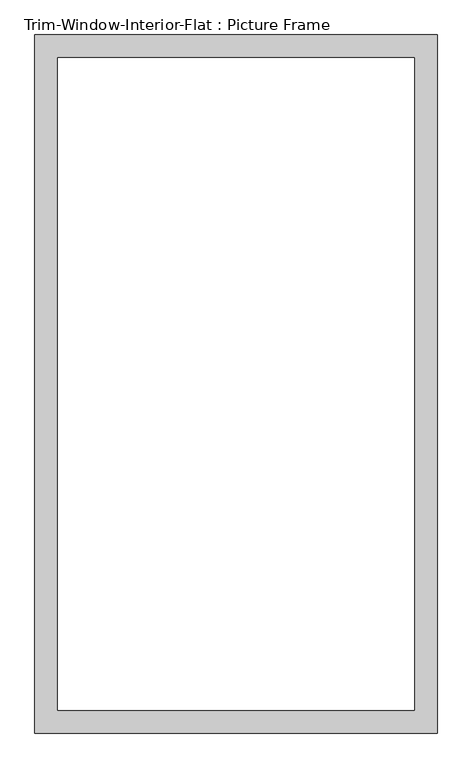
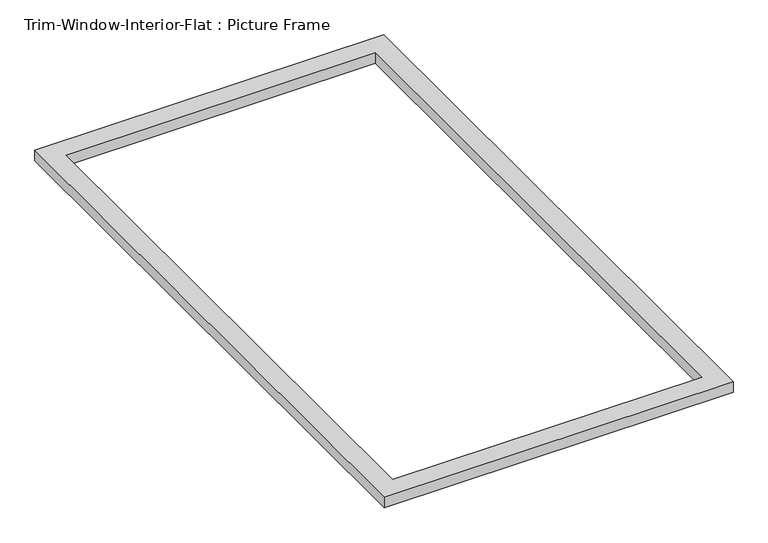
"""IFC4 building model written with IfcOpenShell, lengths in millimetres: proxy geometry, Trim-Window-Interior-Flat : Picture Frame."""

from ifc_helpers import new_model, si_unit, origin, origin_with_axes, place, context, project, spatial, polyline, outline, extrude, source, transform, mapped, element, save


def trim_window_interior_flat_picture_frame_20827519(model_context):
    return source(origin(), model_context, "Body", "SweptSolid", [
        extrude(outline(polyline([(501.65, 44.45), (501.65, -1695.45), (-501.65, -1695.45), (-501.65, 44.45), (501.65, 44.45)]), holes=[polyline([(444.5, -12.7), (-444.5, -12.7), (-444.5, -1638.3), (444.5, -1638.3), (444.5, -12.7)])]), origin_with_axes(), (0.0, 0.0, 1.0), 31.75),
    ])


if __name__ == "__main__":
    model = new_model("IFC4")
    model_context = context("Model", 3, world=origin())
    ifc_project = project(units=[si_unit("LENGTHUNIT", "METRE", prefix="MILLI")], contexts=[model_context])
    site = spatial("IfcSite", under=ifc_project)
    building = spatial("IfcBuilding", under=site)
    placement = place(None, origin())
    trim_window_interior_flat_picture_frame_shape = trim_window_interior_flat_picture_frame_20827519(model_context)
    element("IfcBuildingElementProxy", 1, Name="Trim-Window-Interior-Flat : Picture Frame", ObjectType="Trim-Window-Interior-Flat : Picture Frame", at=placement, inside=building, context=model_context, shape_type="MappedRepresentation", body=[
        mapped(trim_window_interior_flat_picture_frame_shape, transform((0.0, 0.0, 0.0), x_axis=(1.0, 0.0, 0.0), y_axis=(0.0, 1.0, 0.0), z_axis=(0.0, 0.0, 1.0))),
    ])
    save(model, "model.ifc")
